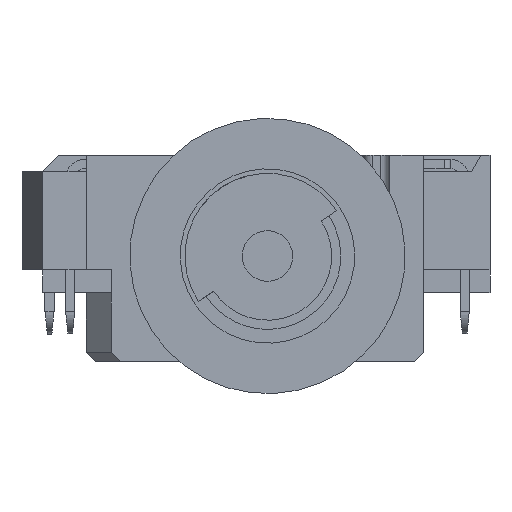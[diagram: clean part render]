
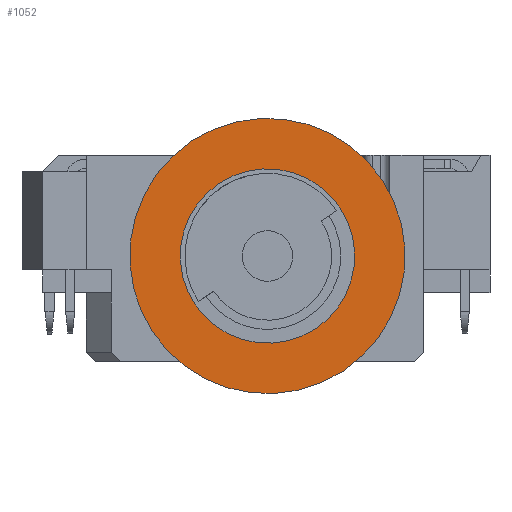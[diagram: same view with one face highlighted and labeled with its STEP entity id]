
A CAD part, front view. The second image highlights one B-rep face of the part: STEP entity #1052.
In plain terms, the highlighted planar face has unit normal (0, -1, 0) as drawn and (1, 0, 0) by its records, which use the part's own axes.
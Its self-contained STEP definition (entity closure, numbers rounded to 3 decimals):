
#121=CARTESIAN_POINT('',(16.,2.85,-2.85));
#122=DIRECTION('',(1.,0.,0.));
#123=DIRECTION('',(0.,0.,-1.));
#124=AXIS2_PLACEMENT_3D('',#121,#122,#123);
#126=CARTESIAN_POINT('',(16.,2.85,-2.85));
#127=DIRECTION('',(1.,0.,0.));
#128=DIRECTION('',(0.,0.,1.));
#129=AXIS2_PLACEMENT_3D('',#126,#127,#128);
#131=CARTESIAN_POINT('',(16.,2.85,-2.85));
#132=DIRECTION('',(-1.,0.,0.));
#133=DIRECTION('',(0.,0.,-1.));
#134=AXIS2_PLACEMENT_3D('',#131,#132,#133);
#136=CARTESIAN_POINT('',(16.,2.85,-2.85));
#137=DIRECTION('',(-1.,0.,0.));
#138=DIRECTION('',(0.,0.,1.));
#139=AXIS2_PLACEMENT_3D('',#136,#137,#138);
#751=CARTESIAN_POINT('',(16.,2.85,-1.1));
#752=CARTESIAN_POINT('',(16.,2.85,-4.6));
#753=VERTEX_POINT('',#751);
#754=VERTEX_POINT('',#752);
#804=CARTESIAN_POINT('',(16.,2.85,-5.85));
#806=VERTEX_POINT('',#804);
#865=CARTESIAN_POINT('',(16.,2.85,0.15));
#866=VERTEX_POINT('',#865);
#1036=CARTESIAN_POINT('',(16.,2.85,-2.85));
#1037=DIRECTION('',(-1.,0.,0.));
#1038=DIRECTION('',(0.,0.,1.));
#1039=AXIS2_PLACEMENT_3D('',#1036,#1037,#1038);
#1040=PLANE('',#1039);
#1041=ORIENTED_EDGE('',*,*,#1026,.F.);
#1043=ORIENTED_EDGE('',*,*,#1042,.F.);
#1044=EDGE_LOOP('',(#1041,#1043));
#1045=FACE_OUTER_BOUND('',#1044,.F.);
#1047=ORIENTED_EDGE('',*,*,#1046,.F.);
#1049=ORIENTED_EDGE('',*,*,#1048,.F.);
#1050=EDGE_LOOP('',(#1047,#1049));
#1051=FACE_BOUND('',#1050,.F.);
#1052=ADVANCED_FACE('',(#1045,#1051),#1040,.F.);
#125=CIRCLE('',#124,3.);
#130=CIRCLE('',#129,3.);
#135=CIRCLE('',#134,1.75);
#140=CIRCLE('',#139,1.75);
#1026=EDGE_CURVE('',#806,#866,#125,.T.);
#1042=EDGE_CURVE('',#866,#806,#130,.T.);
#1046=EDGE_CURVE('',#754,#753,#135,.T.);
#1048=EDGE_CURVE('',#753,#754,#140,.T.);
